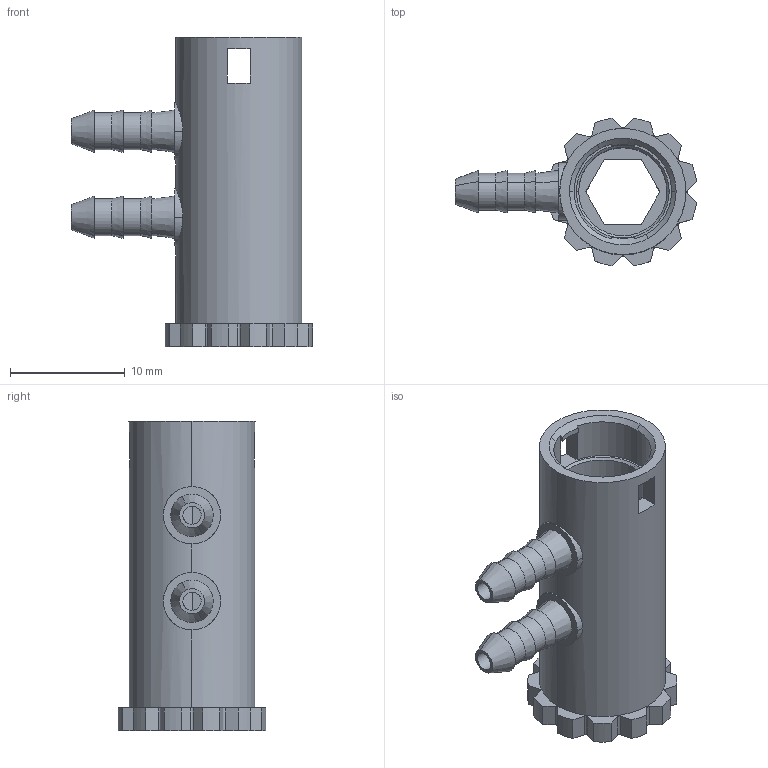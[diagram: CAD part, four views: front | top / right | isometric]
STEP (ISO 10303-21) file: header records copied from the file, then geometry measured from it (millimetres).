
FILE_DESCRIPTION(('CATIA V5 STEP Exchange'),'2;1');
FILE_NAME('G:\够快云库\系统集成开发部\1.部门成员\孙国\座椅速降阀\R20\翘板\STP\BPC0010216 翘板速降阀外壳.stp','2021-10-22T08:10:05+00:00',('none'),('none'),'CATIA Version 5 Release 20 GA (IN-10)','CATIA V5 STEP AP214','none');
FILE_SCHEMA(('AUTOMOTIVE_DESIGN { 1 0 10303 214 1 1 1 1 }'));
Length unit declared in the file: millimetre
Products named in the file (1): BPC0010216-翘板速降阀外壳
Bounding box: 21.03 x 12.87 x 27 mm (x, y, z)
Volume: 1459.4 mm3; surface area: 2100 mm2
Topology: 1 solids, 1 shells, 135 faces, 366 edges, 240 vertices
Faces by surface type: cylinder 58, plane 55, cone 22
Entity records: 4022 total; most frequent: CARTESIAN_POINT 866, ORIENTED_EDGE 732, DIRECTION 492, EDGE_CURVE 366, VERTEX_POINT 240, AXIS2_PLACEMENT_3D 214, VECTOR 198, LINE 198
